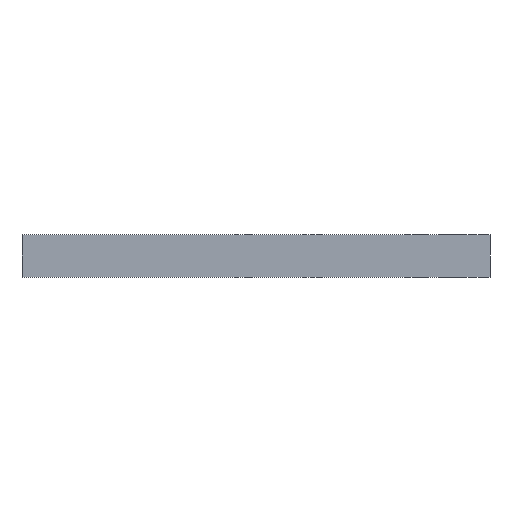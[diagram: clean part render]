
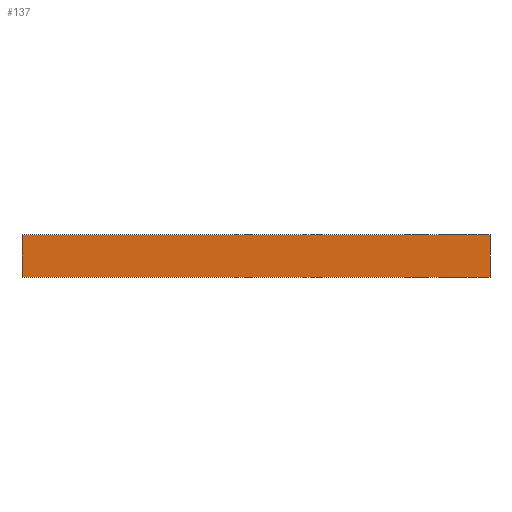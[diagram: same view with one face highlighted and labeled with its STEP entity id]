
A CAD part, front view. The second image highlights one B-rep face of the part: STEP entity #137.
In plain terms, the highlighted planar face has unit normal (0, -1, 0).
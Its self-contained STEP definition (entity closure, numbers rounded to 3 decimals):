
#21 = EDGE_CURVE('',#22,#24,#26,.T.);
#22 = VERTEX_POINT('',#23);
#23 = CARTESIAN_POINT('',(-110.,-100.,0.));
#24 = VERTEX_POINT('',#25);
#25 = CARTESIAN_POINT('',(-110.,-100.,10.));
#26 = SURFACE_CURVE('',#27,(#31,#43),.PCURVE_S1.);
#27 = LINE('',#28,#29);
#28 = CARTESIAN_POINT('',(-110.,-100.,0.));
#29 = VECTOR('',#30,1.);
#30 = DIRECTION('',(0.,0.,1.));
#31 = PCURVE('',#32,#37);
#32 = PLANE('',#33);
#33 = AXIS2_PLACEMENT_3D('',#34,#35,#36);
#34 = CARTESIAN_POINT('',(-110.,-100.,0.));
#35 = DIRECTION('',(1.,0.,0.));
#36 = DIRECTION('',(0.,0.,1.));
#37 = DEFINITIONAL_REPRESENTATION('',(#38),#42);
#38 = LINE('',#39,#40);
#39 = CARTESIAN_POINT('',(0.,0.));
#40 = VECTOR('',#41,1.);
#41 = DIRECTION('',(1.,0.));
#42 = ( GEOMETRIC_REPRESENTATION_CONTEXT(2) 
PARAMETRIC_REPRESENTATION_CONTEXT() REPRESENTATION_CONTEXT('2D SPACE',''
  ) );
#43 = PCURVE('',#44,#49);
#44 = PLANE('',#45);
#45 = AXIS2_PLACEMENT_3D('',#46,#47,#48);
#46 = CARTESIAN_POINT('',(-110.,-100.,0.));
#47 = DIRECTION('',(0.,1.,0.));
#48 = DIRECTION('',(0.,0.,1.));
#49 = DEFINITIONAL_REPRESENTATION('',(#50),#54);
#50 = LINE('',#51,#52);
#51 = CARTESIAN_POINT('',(0.,0.));
#52 = VECTOR('',#53,1.);
#53 = DIRECTION('',(1.,0.));
#54 = ( GEOMETRIC_REPRESENTATION_CONTEXT(2) 
PARAMETRIC_REPRESENTATION_CONTEXT() REPRESENTATION_CONTEXT('2D SPACE',''
  ) );
#72 = PLANE('',#73);
#73 = AXIS2_PLACEMENT_3D('',#74,#75,#76);
#74 = CARTESIAN_POINT('',(-110.,-100.,0.));
#75 = DIRECTION('',(0.,0.,1.));
#76 = DIRECTION('',(1.,0.,0.));
#126 = PLANE('',#127);
#127 = AXIS2_PLACEMENT_3D('',#128,#129,#130);
#128 = CARTESIAN_POINT('',(-110.,-100.,10.));
#129 = DIRECTION('',(0.,0.,1.));
#130 = DIRECTION('',(1.,0.,0.));
#137 = ADVANCED_FACE('',(#138),#44,.F.);
#138 = FACE_BOUND('',#139,.F.);
#139 = EDGE_LOOP('',(#140,#163,#164,#187));
#140 = ORIENTED_EDGE('',*,*,#141,.F.);
#141 = EDGE_CURVE('',#22,#142,#144,.T.);
#142 = VERTEX_POINT('',#143);
#143 = CARTESIAN_POINT('',(-0.15,-100.,0.));
#144 = SURFACE_CURVE('',#145,(#149,#156),.PCURVE_S1.);
#145 = LINE('',#146,#147);
#146 = CARTESIAN_POINT('',(-110.,-100.,0.));
#147 = VECTOR('',#148,1.);
#148 = DIRECTION('',(1.,0.,0.));
#149 = PCURVE('',#44,#150);
#150 = DEFINITIONAL_REPRESENTATION('',(#151),#155);
#151 = LINE('',#152,#153);
#152 = CARTESIAN_POINT('',(0.,0.));
#153 = VECTOR('',#154,1.);
#154 = DIRECTION('',(0.,1.));
#155 = ( GEOMETRIC_REPRESENTATION_CONTEXT(2) 
PARAMETRIC_REPRESENTATION_CONTEXT() REPRESENTATION_CONTEXT('2D SPACE',''
  ) );
#156 = PCURVE('',#72,#157);
#157 = DEFINITIONAL_REPRESENTATION('',(#158),#162);
#158 = LINE('',#159,#160);
#159 = CARTESIAN_POINT('',(0.,0.));
#160 = VECTOR('',#161,1.);
#161 = DIRECTION('',(1.,0.));
#162 = ( GEOMETRIC_REPRESENTATION_CONTEXT(2) 
PARAMETRIC_REPRESENTATION_CONTEXT() REPRESENTATION_CONTEXT('2D SPACE',''
  ) );
#163 = ORIENTED_EDGE('',*,*,#21,.T.);
#164 = ORIENTED_EDGE('',*,*,#165,.T.);
#165 = EDGE_CURVE('',#24,#166,#168,.T.);
#166 = VERTEX_POINT('',#167);
#167 = CARTESIAN_POINT('',(-0.15,-100.,10.));
#168 = SURFACE_CURVE('',#169,(#173,#180),.PCURVE_S1.);
#169 = LINE('',#170,#171);
#170 = CARTESIAN_POINT('',(-110.,-100.,10.));
#171 = VECTOR('',#172,1.);
#172 = DIRECTION('',(1.,0.,0.));
#173 = PCURVE('',#44,#174);
#174 = DEFINITIONAL_REPRESENTATION('',(#175),#179);
#175 = LINE('',#176,#177);
#176 = CARTESIAN_POINT('',(10.,0.));
#177 = VECTOR('',#178,1.);
#178 = DIRECTION('',(0.,1.));
#179 = ( GEOMETRIC_REPRESENTATION_CONTEXT(2) 
PARAMETRIC_REPRESENTATION_CONTEXT() REPRESENTATION_CONTEXT('2D SPACE',''
  ) );
#180 = PCURVE('',#126,#181);
#181 = DEFINITIONAL_REPRESENTATION('',(#182),#186);
#182 = LINE('',#183,#184);
#183 = CARTESIAN_POINT('',(0.,0.));
#184 = VECTOR('',#185,1.);
#185 = DIRECTION('',(1.,0.));
#186 = ( GEOMETRIC_REPRESENTATION_CONTEXT(2) 
PARAMETRIC_REPRESENTATION_CONTEXT() REPRESENTATION_CONTEXT('2D SPACE',''
  ) );
#187 = ORIENTED_EDGE('',*,*,#188,.F.);
#188 = EDGE_CURVE('',#142,#166,#189,.T.);
#189 = SURFACE_CURVE('',#190,(#194,#201),.PCURVE_S1.);
#190 = LINE('',#191,#192);
#191 = CARTESIAN_POINT('',(-0.15,-100.,0.));
#192 = VECTOR('',#193,1.);
#193 = DIRECTION('',(0.,0.,1.));
#194 = PCURVE('',#44,#195);
#195 = DEFINITIONAL_REPRESENTATION('',(#196),#200);
#196 = LINE('',#197,#198);
#197 = CARTESIAN_POINT('',(0.,109.85));
#198 = VECTOR('',#199,1.);
#199 = DIRECTION('',(1.,0.));
#200 = ( GEOMETRIC_REPRESENTATION_CONTEXT(2) 
PARAMETRIC_REPRESENTATION_CONTEXT() REPRESENTATION_CONTEXT('2D SPACE',''
  ) );
#201 = PCURVE('',#202,#207);
#202 = PLANE('',#203);
#203 = AXIS2_PLACEMENT_3D('',#204,#205,#206);
#204 = CARTESIAN_POINT('',(-0.15,-100.,0.));
#205 = DIRECTION('',(1.,0.,0.));
#206 = DIRECTION('',(0.,0.,1.));
#207 = DEFINITIONAL_REPRESENTATION('',(#208),#212);
#208 = LINE('',#209,#210);
#209 = CARTESIAN_POINT('',(0.,0.));
#210 = VECTOR('',#211,1.);
#211 = DIRECTION('',(1.,0.));
#212 = ( GEOMETRIC_REPRESENTATION_CONTEXT(2) 
PARAMETRIC_REPRESENTATION_CONTEXT() REPRESENTATION_CONTEXT('2D SPACE',''
  ) );
